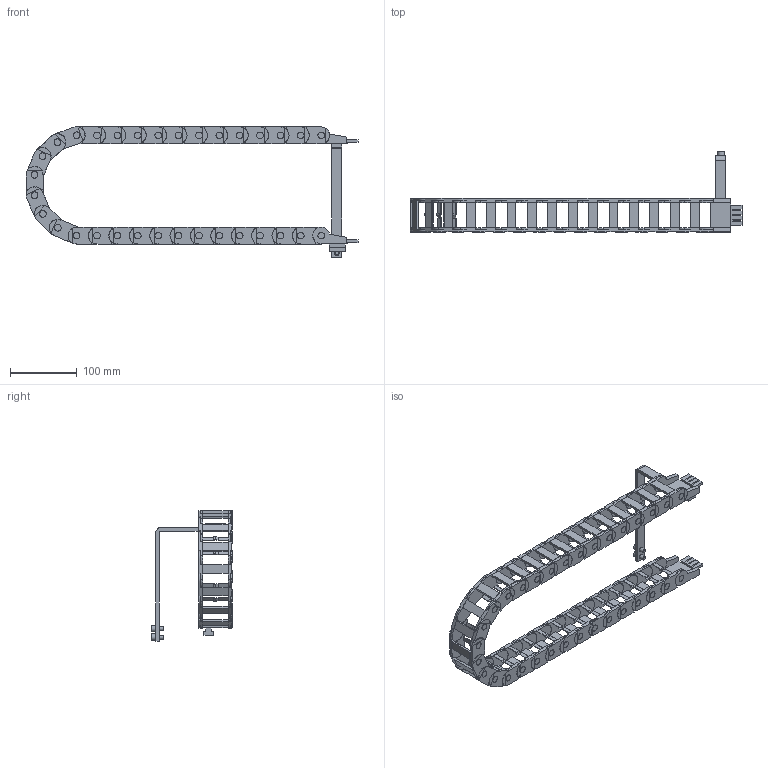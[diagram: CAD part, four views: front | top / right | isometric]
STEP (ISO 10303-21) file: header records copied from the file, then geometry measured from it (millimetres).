
FILE_DESCRIPTION( ( 'STEP AP214' ), '1' );
FILE_NAME( 'U:/Etudes/Top Solid/BIBLIO 3D AVM/STEP/STEP2007LINMOT/8319428.step', '2007-06-07T09:47:32', ( ' ' ), ( ' ' ), 'XStep 1.0', ' ', ' ' );
FILE_SCHEMA( ( 'automotive_design' ) );
Length unit declared in the file: metre
Products named in the file (33): 1; 2; 3; 4; 5; 6; 7; 8; 9; 10; 11; 12; 13; 14; 15; 16; 17; 18; 19; 20; 21; 22; 23; 24; 25; 26; 27; 28; 29; 30; 31; 32; 33
Bounding box: 496.71 x 120 x 195.5 mm (x, y, z)
Volume: 373335.3 mm3; surface area: 280909.1 mm2
Topology: 33 solids, 33 shells, 2532 faces, 7171 edges, 4778 vertices
Faces by surface type: plane 1907, cylinder 623, cone 2
Full cylindrical faces by diameter (mm): 6 x4, 6.5 x2, 10 x2
Entity records: 103001 total; most frequent: CARTESIAN_POINT 14558, ORIENTED_EDGE 14310, DIRECTION 14027, EDGE_CURVE 7155, LINE 5409, VECTOR 5409, VERTEX_POINT 4772, AXIS2_PLACEMENT_3D 4309
